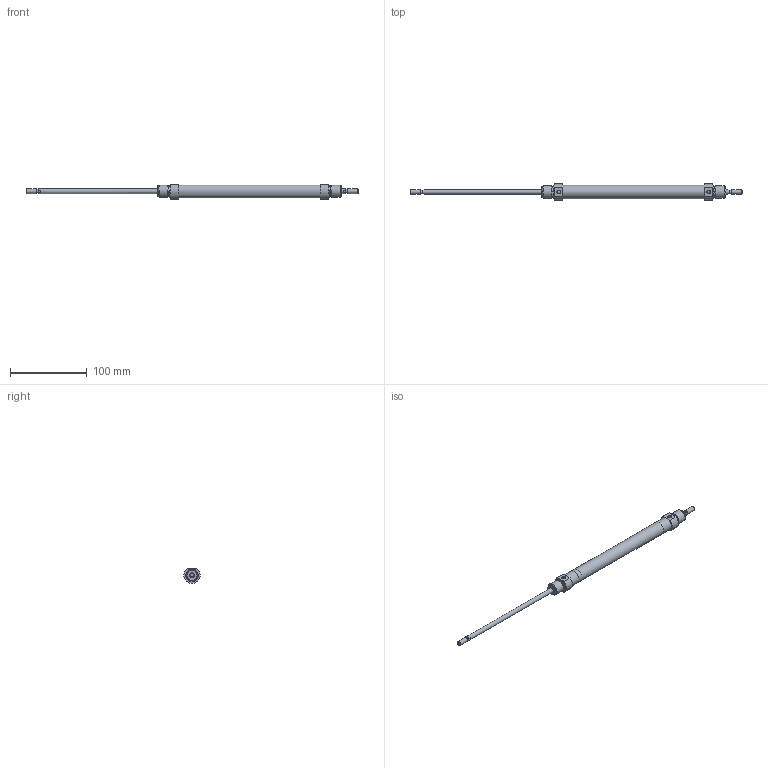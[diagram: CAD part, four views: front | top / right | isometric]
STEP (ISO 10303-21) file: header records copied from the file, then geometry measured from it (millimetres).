
FILE_DESCRIPTION( ( 'STEP AP203' ), '1' );
FILE_NAME( '//expscmdclustefs.cadenas.external/client_exchange/iodir/jobs/output/wkb68413272_no0/STEP/M101-016-0150-M__0__2_03.stp', ' ', ( ' ' ), ( ' ' ), 'PSStep 15.0.47', 'PARTsolutions', ' ' );
FILE_SCHEMA( ( 'CONFIG_CONTROL_DESIGN' ) );
Length unit declared in the file: millimetre
Products named in the file (3): M101-016-0150-M [0]; HI_M101-016-0150-M-[0]-z; HI_M101-016-0150-M-[0]-k
Assembly tree (2 placements, depth 2):
  M101-016-0150-M [0]
    HI_M101-016-0150-M-[0]-z
    HI_M101-016-0150-M-[0]-k
Bounding box: 432 x 20.94 x 19.09 mm (x, y, z)
Volume: 36337.8 mm3; surface area: 32543.4 mm2
Topology: 2 solids, 2 shells, 67 faces, 135 edges, 82 vertices
Faces by surface type: plane 28, cylinder 23, cone 14, torus 2
Full cylindrical faces by diameter (mm): 4.134 x2, 4.773 x2, 6 x6, 14.16 x4, 16 x6, 17.3 x1
Entity records: 1730 total; most frequent: CARTESIAN_POINT 334, DIRECTION 292, ORIENTED_EDGE 196, AXIS2_PLACEMENT_3D 132, EDGE_LOOP 116, EDGE_CURVE 98, FACE_OUTER_BOUND 90, VERTEX_POINT 78
